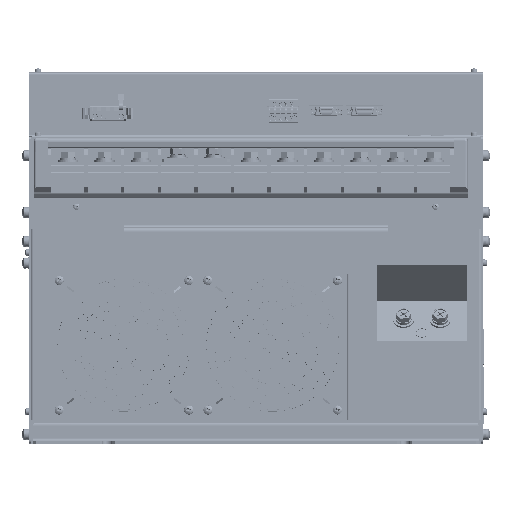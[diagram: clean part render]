
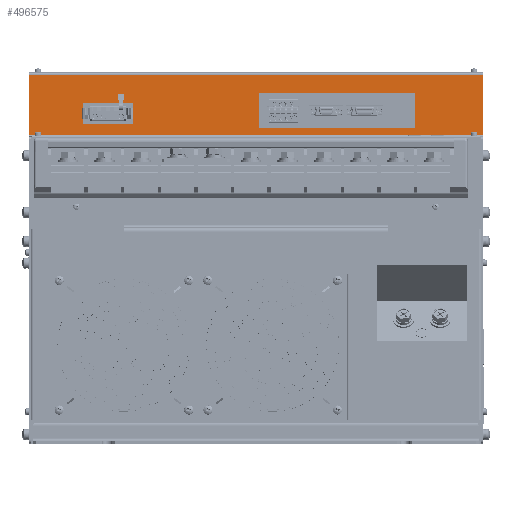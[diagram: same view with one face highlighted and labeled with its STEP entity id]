
A CAD part, front view. The second image highlights one B-rep face of the part: STEP entity #496575.
In plain terms, the highlighted planar face has unit normal (0, -1, 0).
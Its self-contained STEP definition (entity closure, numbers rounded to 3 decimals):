
#1825 = EDGE_CURVE ( 'NONE', #503975, #394241, #138746, .T. ) ;
#2797 = VERTEX_POINT ( 'NONE', #292317 ) ;
#18718 = VERTEX_POINT ( 'NONE', #454462 ) ;
#24340 = EDGE_CURVE ( 'NONE', #280891, #456257, #277246, .T. ) ;
#29761 = VECTOR ( 'NONE', #117764, 1000. ) ;
#31854 = LINE ( 'NONE', #433916, #262104 ) ;
#37270 = FACE_BOUND ( 'NONE', #458180, .T. ) ;
#42655 = ORIENTED_EDGE ( 'NONE', *, *, #248170, .F. ) ;
#50422 = CARTESIAN_POINT ( 'NONE',  ( -151.6, 74.5, 277.6 ) ) ;
#51304 = CARTESIAN_POINT ( 'NONE',  ( -151.6, 74.5, 259.6 ) ) ;
#57322 = VECTOR ( 'NONE', #476283, 1000. ) ;
#63011 = VERTEX_POINT ( 'NONE', #373658 ) ;
#64125 = EDGE_CURVE ( 'NONE', #400832, #323259, #435713, .T. ) ;
#70680 = ORIENTED_EDGE ( 'NONE', *, *, #64125, .F. ) ;
#70901 = FACE_BOUND ( 'NONE', #345742, .T. ) ;
#86877 = PLANE ( 'NONE',  #483851 ) ;
#89260 = DIRECTION ( 'NONE',  ( -1., 0., 0. ) ) ;
#91906 = VERTEX_POINT ( 'NONE', #404540 ) ;
#99947 = EDGE_CURVE ( 'NONE', #18718, #170967, #397444, .T. ) ;
#117348 = ORIENTED_EDGE ( 'NONE', *, *, #183565, .F. ) ;
#117764 = DIRECTION ( 'NONE',  ( 0., 0., -1. ) ) ;
#138746 = LINE ( 'NONE', #50422, #57322 ) ;
#143320 = LINE ( 'NONE', #509058, #393874 ) ;
#149320 = DIRECTION ( 'NONE',  ( -1., 0., 0. ) ) ;
#151492 = VECTOR ( 'NONE', #497434, 1000. ) ;
#157712 = ORIENTED_EDGE ( 'NONE', *, *, #536289, .F. ) ;
#159340 = CARTESIAN_POINT ( 'NONE',  ( 198.6, 74.5, 249. ) ) ;
#161243 = CARTESIAN_POINT ( 'NONE',  ( -198.6, 74.5, 302.4 ) ) ;
#162135 = EDGE_CURVE ( 'NONE', #323259, #503975, #537110, .T. ) ;
#162157 = VECTOR ( 'NONE', #349971, 1000. ) ;
#169310 = CARTESIAN_POINT ( 'NONE',  ( 139.3, 74.5, 286.2 ) ) ;
#170967 = VERTEX_POINT ( 'NONE', #161243 ) ;
#179472 = CARTESIAN_POINT ( 'NONE',  ( 0., 74.5, 249. ) ) ;
#181805 = CARTESIAN_POINT ( 'NONE',  ( 198.6, 74.5, 250. ) ) ;
#183565 = EDGE_CURVE ( 'NONE', #209546, #91906, #503736, .T. ) ;
#185979 = FACE_OUTER_BOUND ( 'NONE', #490724, .T. ) ;
#187053 = DIRECTION ( 'NONE',  ( 1., 0., 0. ) ) ;
#205693 = EDGE_CURVE ( 'NONE', #91906, #18718, #443268, .T. ) ;
#209546 = VERTEX_POINT ( 'NONE', #322787 ) ;
#221789 = CARTESIAN_POINT ( 'NONE',  ( -151.6, 74.5, 277.6 ) ) ;
#225184 = VECTOR ( 'NONE', #385076, 1000. ) ;
#228597 = EDGE_CURVE ( 'NONE', #456257, #63011, #263172, .T. ) ;
#229559 = EDGE_CURVE ( 'NONE', #63011, #2797, #31854, .T. ) ;
#234361 = CARTESIAN_POINT ( 'NONE',  ( -107.6, 74.5, 259.6 ) ) ;
#247034 = ORIENTED_EDGE ( 'NONE', *, *, #205693, .F. ) ;
#248170 = EDGE_CURVE ( 'NONE', #170967, #209546, #367676, .T. ) ;
#262104 = VECTOR ( 'NONE', #390474, 1000. ) ;
#263172 = LINE ( 'NONE', #523908, #337636 ) ;
#265727 = VECTOR ( 'NONE', #187053, 1000. ) ;
#277246 = LINE ( 'NONE', #433255, #162157 ) ;
#280891 = VERTEX_POINT ( 'NONE', #473917 ) ;
#284337 = ORIENTED_EDGE ( 'NONE', *, *, #99947, .F. ) ;
#292317 = CARTESIAN_POINT ( 'NONE',  ( 2.3, 74.5, 256.2 ) ) ;
#304561 = DIRECTION ( 'NONE',  ( -1., 0., 0. ) ) ;
#322787 = CARTESIAN_POINT ( 'NONE',  ( 198.6, 74.5, 302.4 ) ) ;
#323259 = VERTEX_POINT ( 'NONE', #379953 ) ;
#331489 = DIRECTION ( 'NONE',  ( 1., 0., 0. ) ) ;
#337636 = VECTOR ( 'NONE', #395470, 1000. ) ;
#345742 = EDGE_LOOP ( 'NONE', ( #372462, #355989, #70680, #157712 ) ) ;
#349971 = DIRECTION ( 'NONE',  ( 0., 0., 1. ) ) ;
#355989 = ORIENTED_EDGE ( 'NONE', *, *, #162135, .F. ) ;
#367676 = LINE ( 'NONE', #558789, #225184 ) ;
#372462 = ORIENTED_EDGE ( 'NONE', *, *, #1825, .F. ) ;
#373658 = CARTESIAN_POINT ( 'NONE',  ( 2.3, 74.5, 286.2 ) ) ;
#379953 = CARTESIAN_POINT ( 'NONE',  ( -107.6, 74.5, 277.6 ) ) ;
#383898 = CARTESIAN_POINT ( 'NONE',  ( -198.6, 74.5, 302.4 ) ) ;
#385076 = DIRECTION ( 'NONE',  ( 1., 0., 0. ) ) ;
#390474 = DIRECTION ( 'NONE',  ( 0., 0., -1. ) ) ;
#393874 = VECTOR ( 'NONE', #331489, 1000. ) ;
#394241 = VERTEX_POINT ( 'NONE', #51304 ) ;
#395470 = DIRECTION ( 'NONE',  ( -1., 0., 0. ) ) ;
#397444 = LINE ( 'NONE', #383898, #431655 ) ;
#400832 = VERTEX_POINT ( 'NONE', #234361 ) ;
#404540 = CARTESIAN_POINT ( 'NONE',  ( 198.6, 74.5, 250. ) ) ;
#416297 = VECTOR ( 'NONE', #89260, 1000. ) ;
#431655 = VECTOR ( 'NONE', #512325, 1000. ) ;
#433255 = CARTESIAN_POINT ( 'NONE',  ( 139.3, 74.5, 286.2 ) ) ;
#433916 = CARTESIAN_POINT ( 'NONE',  ( 2.3, 74.5, 286.2 ) ) ;
#435713 = LINE ( 'NONE', #501222, #151492 ) ;
#439446 = ORIENTED_EDGE ( 'NONE', *, *, #24340, .F. ) ;
#442447 = DIRECTION ( 'NONE',  ( 0., -1., 0. ) ) ;
#443268 = LINE ( 'NONE', #181805, #416297 ) ;
#451898 = CARTESIAN_POINT ( 'NONE',  ( -151.6, 74.5, 259.6 ) ) ;
#454462 = CARTESIAN_POINT ( 'NONE',  ( -198.6, 74.5, 250. ) ) ;
#456257 = VERTEX_POINT ( 'NONE', #169310 ) ;
#458180 = EDGE_LOOP ( 'NONE', ( #497009, #497541, #439446, #508041 ) ) ;
#463523 = EDGE_CURVE ( 'NONE', #2797, #280891, #143320, .T. ) ;
#473917 = CARTESIAN_POINT ( 'NONE',  ( 139.3, 74.5, 256.2 ) ) ;
#476283 = DIRECTION ( 'NONE',  ( 0., 0., -1. ) ) ;
#483851 = AXIS2_PLACEMENT_3D ( 'NONE', #179472, #442447, #304561 ) ;
#490724 = EDGE_LOOP ( 'NONE', ( #284337, #247034, #117348, #42655 ) ) ;
#496575 = ADVANCED_FACE ( 'NONE', ( #185979, #70901, #37270 ), #86877, .T. ) ;
#497009 = ORIENTED_EDGE ( 'NONE', *, *, #229559, .F. ) ;
#497434 = DIRECTION ( 'NONE',  ( 0., 0., 1. ) ) ;
#497541 = ORIENTED_EDGE ( 'NONE', *, *, #228597, .F. ) ;
#501222 = CARTESIAN_POINT ( 'NONE',  ( -107.6, 74.5, 277.6 ) ) ;
#503736 = LINE ( 'NONE', #159340, #29761 ) ;
#503975 = VERTEX_POINT ( 'NONE', #221789 ) ;
#508041 = ORIENTED_EDGE ( 'NONE', *, *, #463523, .F. ) ;
#509058 = CARTESIAN_POINT ( 'NONE',  ( 2.3, 74.5, 256.2 ) ) ;
#509395 = LINE ( 'NONE', #451898, #265727 ) ;
#512325 = DIRECTION ( 'NONE',  ( 0., 0., 1. ) ) ;
#523908 = CARTESIAN_POINT ( 'NONE',  ( 2.3, 74.5, 286.2 ) ) ;
#536289 = EDGE_CURVE ( 'NONE', #394241, #400832, #509395, .T. ) ;
#537110 = LINE ( 'NONE', #537143, #557292 ) ;
#537143 = CARTESIAN_POINT ( 'NONE',  ( -151.6, 74.5, 277.6 ) ) ;
#557292 = VECTOR ( 'NONE', #149320, 1000. ) ;
#558789 = CARTESIAN_POINT ( 'NONE',  ( 198.6, 74.5, 302.4 ) ) ;
